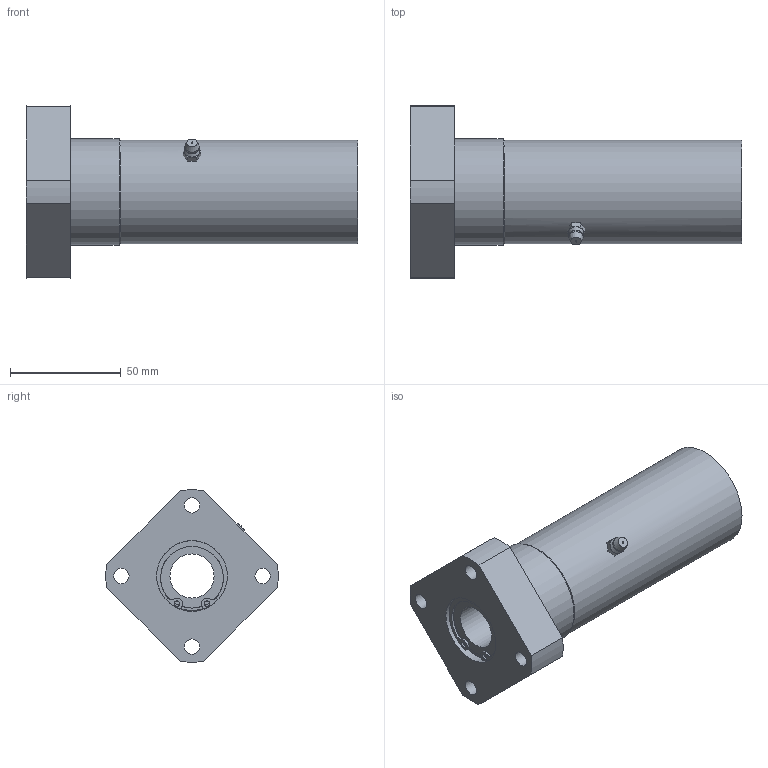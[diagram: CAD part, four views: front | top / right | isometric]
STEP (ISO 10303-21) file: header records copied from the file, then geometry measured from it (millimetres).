
FILE_DESCRIPTION((''),'2;1');
FILE_NAME('D:\製品 (図面)\カタログ用3D\リニアベアリング関連(改)\STEP形式\LFWL\LFWL20A.stp','2010-01-22T16:32:54',('Tsuchiya'),(''),'Autodesk Inventor 10','Autodesk Inventor 10','');
FILE_SCHEMA(('AUTOMOTIVE_DESIGN { 1 0 10303 214 1 1 1 1 }'));
Length unit declared in the file: millimetre
Products named in the file (1): LFWL20A
Bounding box: 150 x 77.92 x 77.92 mm (x, y, z)
Volume: 248749.3 mm3; surface area: 46443.1 mm2
Topology: 1 solids, 7 shells, 114 faces, 270 edges, 169 vertices
Faces by surface type: bspline 36, plane 35, cylinder 31, cone 8, sphere 2, torus 2
Full cylindrical faces by diameter (mm): 2.5 x2, 7 x4, 20 x2, 29 x2, 30.3 x2, 32 x8, 47 x1, 48 x1
Entity records: 3355 total; most frequent: CARTESIAN_POINT 975, DIRECTION 498, ORIENTED_EDGE 420, AXIS2_PLACEMENT_3D 221, EDGE_CURVE 210, EDGE_LOOP 188, VERTEX_POINT 150, CIRCLE 138
